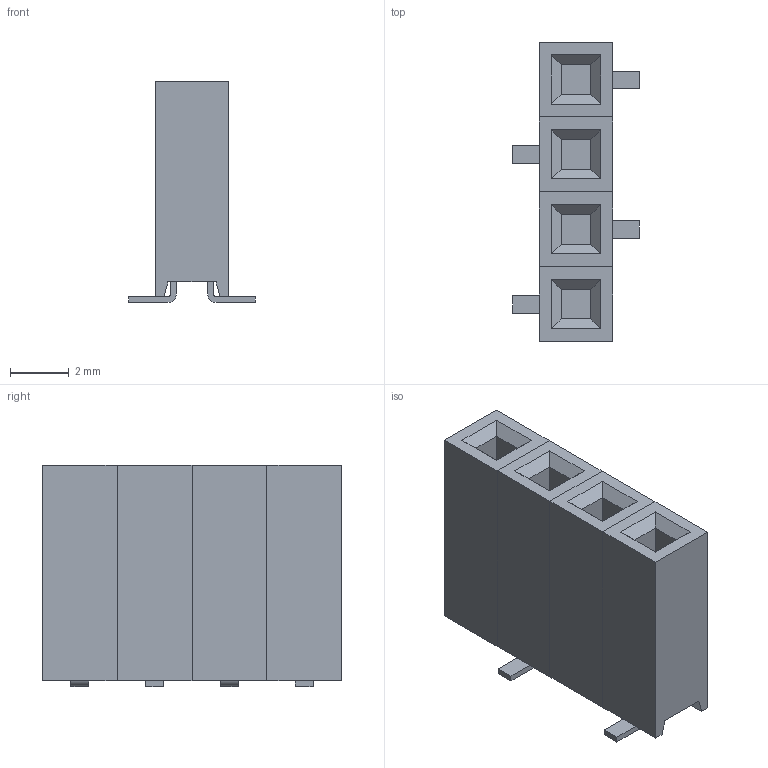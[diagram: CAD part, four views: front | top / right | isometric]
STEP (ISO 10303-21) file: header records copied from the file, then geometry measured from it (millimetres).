
FILE_DESCRIPTION(('FreeCAD Model'),'2;1');
FILE_NAME('Open CASCADE Shape Model','2025-02-24T21:29:28',( 'Krisjanis Rijnieks'),(''),'Open CASCADE STEP processor 7.7', 'FreeCAD','Unknown');
FILE_SCHEMA(('AUTOMOTIVE_DESIGN { 1 0 10303 214 1 1 1 1 }'));
Length unit declared in the file: millimetre
Products named in the file (13): 01x04_P2.54mm_Vertical_SMD; 01x01_P2.54mm_Vertical_SMD006; Body006; Lead006; 01x01_P2.54mm_Vertical_SMD007; Body007; Lead007; 01x01_P2.54mm_Vertical_SMD008; Body008; Lead008; 01x01_P2.54mm_Vertical_SMD009; Body009; Lead009
Assembly tree (12 placements, depth 3):
  01x04_P2.54mm_Vertical_SMD
    01x01_P2.54mm_Vertical_SMD006
      Body006
      Lead006
    01x01_P2.54mm_Vertical_SMD007
      Body007
      Lead007
    01x01_P2.54mm_Vertical_SMD008
      Body008
      Lead008
    01x01_P2.54mm_Vertical_SMD009
      Body009
      Lead009
Bounding box: 4.3 x 10.16 x 7.5 mm (x, y, z)
Volume: 161.8 mm3; surface area: 423.4 mm2
Topology: 8 solids, 8 shells, 116 faces, 272 edges, 176 vertices
Faces by surface type: plane 108, cylinder 8
Entity records: 3539 total; most frequent: CARTESIAN_POINT 577, DIRECTION 546, ORIENTED_EDGE 544, EDGE_CURVE 272, LINE 256, VECTOR 256, VERTEX_POINT 176, AXIS2_PLACEMENT_3D 145
